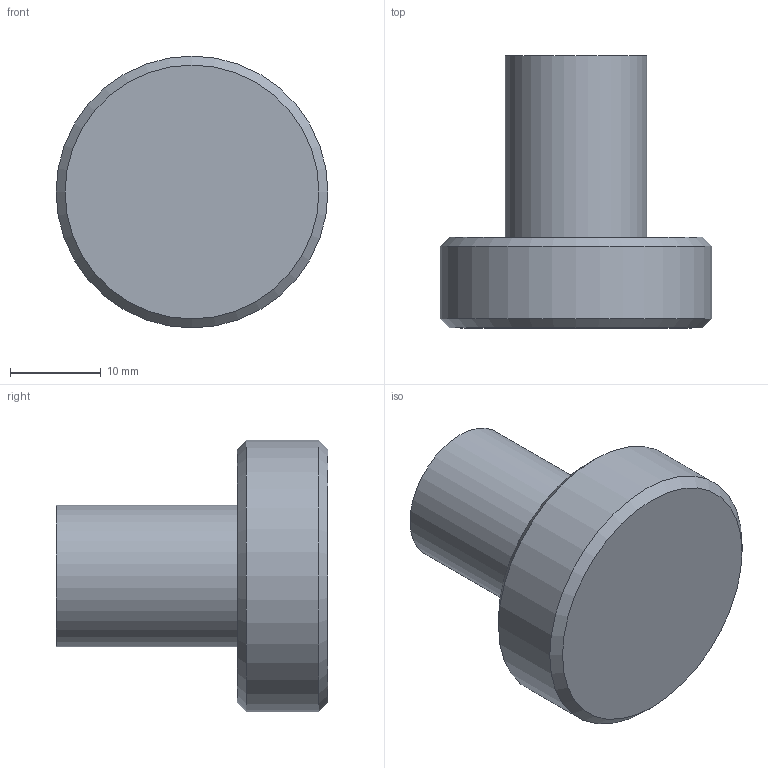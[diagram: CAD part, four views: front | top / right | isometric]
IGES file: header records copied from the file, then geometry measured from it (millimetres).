
Start section: Data from Parasolid IGES Translator 15.0.47, Copyright(c) 2006 Siemens P LM Software. All Rights Reserved.
Global section: file name: 9113326.igs; native system:  By UGS Corp.; preprocessor: XPlus GENERIC/IGES 3.0; author: Noname; organization: Noname; date: 20140122.163704; units: millimetre
Bounding box: 30 x 30 x 30 mm (x, y, z)
Surface area: 3330.2 mm2 (no closed solid volume)
Topology: 0 solids, 0 shells, 9 faces, 28 edges, 22 vertices
Faces by surface type: revolution 5, extrusion 4
